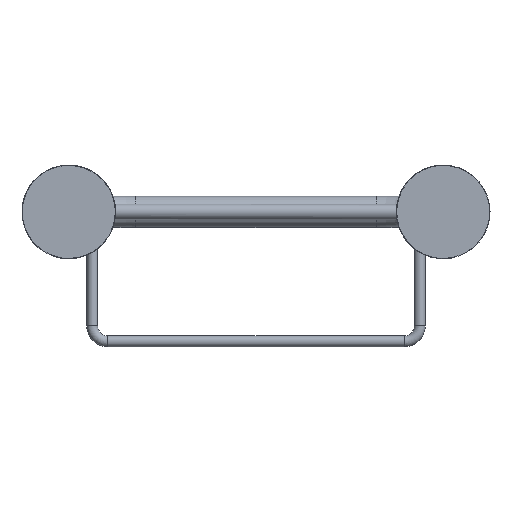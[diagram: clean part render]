
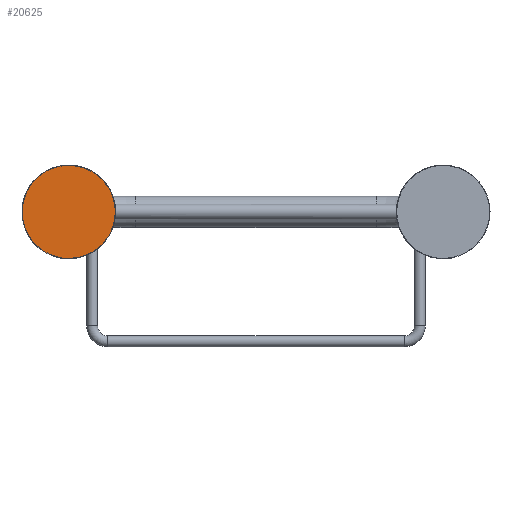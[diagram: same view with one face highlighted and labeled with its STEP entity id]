
A CAD part, front view. The second image highlights one B-rep face of the part: STEP entity #20625.
In plain terms, the highlighted planar face has unit normal (0, -1, 0).
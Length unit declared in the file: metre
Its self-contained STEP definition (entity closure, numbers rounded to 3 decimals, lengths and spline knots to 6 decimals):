
#146=EDGE_CURVE('',#147,#149,#151,.F.);
#147=VERTEX_POINT('',#148);
#148=CARTESIAN_POINT('',(-0.24,-0.014,-0.0298));
#149=VERTEX_POINT('',#150);
#150=CARTESIAN_POINT('',(-0.24,-0.014,0.0298));
#151=CIRCLE('',#152,0.0298);
#152=AXIS2_PLACEMENT_3D('',#153,#154,#155);
#153=CARTESIAN_POINT('',(-0.24,-0.014,0.0));
#154=DIRECTION('',(0.0,1.0,0.0));
#155=DIRECTION('',(0.0,0.0,1.0));
#20625=ADVANCED_FACE('',(#20631),#20626,.F.);
#20626=PLANE('',#20627);
#20627=AXIS2_PLACEMENT_3D('',#20628,#20629,#20630);
#20628=CARTESIAN_POINT('',(-0.24,-0.014,0.03));
#20629=DIRECTION('',(0.0,1.0,0.0));
#20630=DIRECTION('',(0.0,0.0,1.0));
#20631=FACE_OUTER_BOUND('',#20632,.T.);
#20632=EDGE_LOOP('',(#20633,#20641));
#20633=ORIENTED_EDGE('',*,*,#20635,.T.);
#20634=CARTESIAN_POINT('',(-0.24,-0.014,-0.0298));
#20635=EDGE_CURVE('',#149,#147,#20636,.F.);
#20636=(B_SPLINE_CURVE(3,(#20634,#20637,#20638,#20639),.UNSPECIFIED.,.F.,
  .U.)B_SPLINE_CURVE_WITH_KNOTS((4,4),(0.0,1.0),.UNSPECIFIED.)BOUNDED_CURVE(
  )CURVE()GEOMETRIC_REPRESENTATION_ITEM()RATIONAL_B_SPLINE_CURVE((1.0,
  0.333,0.333,1.0))REPRESENTATION_ITEM(''));
#20637=CARTESIAN_POINT('',(-0.2996,-0.014,-0.0298));
#20638=CARTESIAN_POINT('',(-0.2996,-0.014,0.0298));
#20639=CARTESIAN_POINT('',(-0.24,-0.014,0.0298));
#20641=ORIENTED_EDGE('',*,*,#146,.T.);
